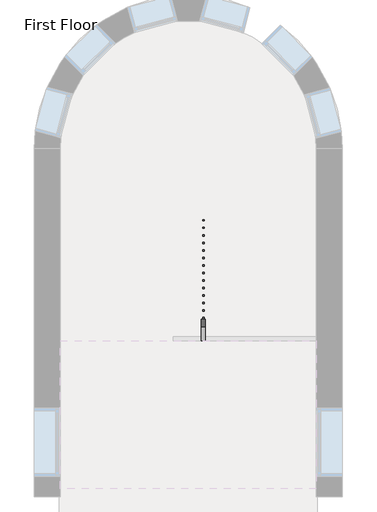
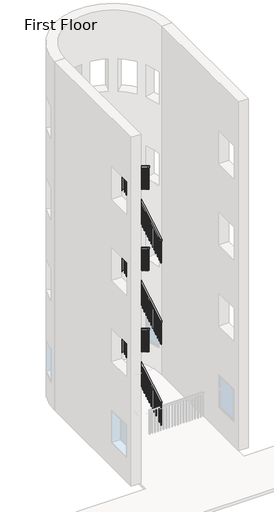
# One storey, part 4 of 5: 1 railing.
"""IFC4 building model written with IfcOpenShell, lengths in millimetres."""

from ifc_helpers import new_model, si_unit, frame, origin, place, context, project, spatial, polyline, outline, extrude, element, save

model = new_model("IFC4")

# Units and contexts
model_context = context("Model", 3, world=origin())
ifc_project = project(units=[si_unit("LENGTHUNIT", "METRE", prefix="MILLI")], contexts=[model_context])

# Site, building, storey
site = spatial("IfcSite", under=ifc_project)
building = spatial("IfcBuilding", under=site)
storey = spatial("IfcBuildingStorey", under=building, Name="First Floor", Elevation=0.0)

# Railing
placement = place(None, origin())
element("IfcRailing", 1, ObjectType="Handrail - Rectangular", at=placement, inside=storey, context=model_context, shape_type="SweptSolid", body=[
    extrude(outline(polyline([(7001.9758812, 7125.0190125), (7001.9758812, 7184.0202532), (9237.1758812, 8504.3915612), (9237.1758812, 8445.3903205), (7001.9758812, 7125.0190125)])), frame((-6067.8149687, 0.0, 0.0), z_axis=(1.0, 0.0, 0.0), x_axis=(0.0, 1.0, 0.0)), (0.0, 0.0, 1.0), 50.8),
    extrude(outline(polyline([(-6017.0149687, 9287.9758812), (-6017.0149687, 9237.1758812), (-6423.4149687, 9237.1758812), (-6423.4149687, 9287.9758812), (-6017.0149687, 9287.9758812)])), frame((0.0, 0.0, 8483.6), z_axis=(0.0, 0.0, 1.0), x_axis=(1.0, 0.0, 0.0)), (0.0, 0.0, 1.0), 50.8),
    extrude(outline(polyline([(9287.9758812, 8703.7333333), (9287.9758812, 8644.3318731), (7052.7758812, 9998.9985397), (7052.7758812, 10058.4), (9287.9758812, 8703.7333333)])), frame((-6474.2149687, 0.0, 0.0), z_axis=(1.0, 0.0, 0.0), x_axis=(0.0, 1.0, 0.0)), (0.0, 0.0, 1.0), 50.8),
    extrude(outline(polyline([(7138.5008812, 9947.0439943), (7138.5008812, 9134.8266332), (7119.4508812, 9146.3720877), (7119.4508812, 9958.5894488), (7138.5008812, 9947.0439943)])), frame((-6458.3399687, 0.0, 0.0), z_axis=(1.0, 0.0, 0.0), x_axis=(0.0, 1.0, 0.0)), (0.0, 0.0, 1.0), 19.05),
    extrude(outline(polyline([(7240.1008812, 9885.4682367), (7240.1008812, 9073.2508756), (7221.0508812, 9084.7963301), (7221.0508812, 9897.0136913), (7240.1008812, 9885.4682367)])), frame((-6458.3399687, 0.0, 0.0), z_axis=(1.0, 0.0, 0.0), x_axis=(0.0, 1.0, 0.0)), (0.0, 0.0, 1.0), 19.05),
    extrude(outline(polyline([(7341.7008812, 9823.8924791), (7341.7008812, 9011.675118), (7322.6508812, 9023.2205726), (7322.6508812, 9835.4379337), (7341.7008812, 9823.8924791)])), frame((-6458.3399687, 0.0, 0.0), z_axis=(1.0, 0.0, 0.0), x_axis=(0.0, 1.0, 0.0)), (0.0, 0.0, 1.0), 19.05),
    extrude(outline(polyline([(7443.3008812, 9762.3167216), (7443.3008812, 8950.0993604), (7424.2508812, 8961.644815), (7424.2508812, 9773.8621761), (7443.3008812, 9762.3167216)])), frame((-6458.3399687, 0.0, 0.0), z_axis=(1.0, 0.0, 0.0), x_axis=(0.0, 1.0, 0.0)), (0.0, 0.0, 1.0), 19.05),
    extrude(outline(polyline([(7544.9008812, 9700.740964), (7544.9008812, 8888.5236029), (7525.8508812, 8900.0690574), (7525.8508812, 9712.2864185), (7544.9008812, 9700.740964)])), frame((-6458.3399687, 0.0, 0.0), z_axis=(1.0, 0.0, 0.0), x_axis=(0.0, 1.0, 0.0)), (0.0, 0.0, 1.0), 19.05),
    extrude(outline(polyline([(7646.5008812, 9639.1652064), (7646.5008812, 8826.9478453), (7627.4508812, 8838.4932998), (7627.4508812, 9650.710661), (7646.5008812, 9639.1652064)])), frame((-6458.3399687, 0.0, 0.0), z_axis=(1.0, 0.0, 0.0), x_axis=(0.0, 1.0, 0.0)), (0.0, 0.0, 1.0), 19.05),
    extrude(outline(polyline([(7748.1008812, 9577.5894488), (7748.1008812, 8765.3720877), (7729.0508812, 8776.9175423), (7729.0508812, 9589.1349034), (7748.1008812, 9577.5894488)])), frame((-6458.3399687, 0.0, 0.0), z_axis=(1.0, 0.0, 0.0), x_axis=(0.0, 1.0, 0.0)), (0.0, 0.0, 1.0), 19.05),
    extrude(outline(polyline([(7849.7008812, 9516.0136913), (7849.7008812, 8703.7963301), (7830.6508812, 8715.3417847), (7830.6508812, 9527.5591458), (7849.7008812, 9516.0136913)])), frame((-6458.3399687, 0.0, 0.0), z_axis=(1.0, 0.0, 0.0), x_axis=(0.0, 1.0, 0.0)), (0.0, 0.0, 1.0), 19.05),
    extrude(outline(polyline([(7951.3008812, 9454.4379337), (7951.3008812, 8642.2205726), (7932.2508812, 8653.7660271), (7932.2508812, 9465.9833882), (7951.3008812, 9454.4379337)])), frame((-6458.3399687, 0.0, 0.0), z_axis=(1.0, 0.0, 0.0), x_axis=(0.0, 1.0, 0.0)), (0.0, 0.0, 1.0), 19.05),
    extrude(outline(polyline([(8052.9008812, 9392.8621761), (8052.9008812, 8580.644815), (8033.8508812, 8592.1902695), (8033.8508812, 9404.4076307), (8052.9008812, 9392.8621761)])), frame((-6458.3399687, 0.0, 0.0), z_axis=(1.0, 0.0, 0.0), x_axis=(0.0, 1.0, 0.0)), (0.0, 0.0, 1.0), 19.05),
    extrude(outline(polyline([(8154.5008812, 9331.2864185), (8154.5008812, 8519.0690574), (8135.4508812, 8530.614512), (8135.4508812, 9342.8318731), (8154.5008812, 9331.2864185)])), frame((-6458.3399687, 0.0, 0.0), z_axis=(1.0, 0.0, 0.0), x_axis=(0.0, 1.0, 0.0)), (0.0, 0.0, 1.0), 19.05),
    extrude(outline(polyline([(8256.1008812, 9269.710661), (8256.1008812, 8457.4932998), (8237.0508812, 8469.0387544), (8237.0508812, 9281.2561155), (8256.1008812, 9269.710661)])), frame((-6458.3399687, 0.0, 0.0), z_axis=(1.0, 0.0, 0.0), x_axis=(0.0, 1.0, 0.0)), (0.0, 0.0, 1.0), 19.05),
    extrude(outline(polyline([(8357.7008812, 9208.1349034), (8357.7008812, 8395.9175423), (8338.6508812, 8407.4629968), (8338.6508812, 9219.6803579), (8357.7008812, 9208.1349034)])), frame((-6458.3399687, 0.0, 0.0), z_axis=(1.0, 0.0, 0.0), x_axis=(0.0, 1.0, 0.0)), (0.0, 0.0, 1.0), 19.05),
    extrude(outline(polyline([(8459.3008812, 9146.5591458), (8459.3008812, 8334.3417847), (8440.2508812, 8345.8872392), (8440.2508812, 9158.1046004), (8459.3008812, 9146.5591458)])), frame((-6458.3399687, 0.0, 0.0), z_axis=(1.0, 0.0, 0.0), x_axis=(0.0, 1.0, 0.0)), (0.0, 0.0, 1.0), 19.05),
    extrude(outline(polyline([(8560.9008812, 9084.9833882), (8560.9008812, 8272.7660271), (8541.8508812, 8284.3114817), (8541.8508812, 9096.5288428), (8560.9008812, 9084.9833882)])), frame((-6458.3399687, 0.0, 0.0), z_axis=(1.0, 0.0, 0.0), x_axis=(0.0, 1.0, 0.0)), (0.0, 0.0, 1.0), 19.05),
    extrude(outline(polyline([(8662.5008812, 9023.4076307), (8662.5008812, 8211.1902695), (8643.4508812, 8222.7357241), (8643.4508812, 9034.9530852), (8662.5008812, 9023.4076307)])), frame((-6458.3399687, 0.0, 0.0), z_axis=(1.0, 0.0, 0.0), x_axis=(0.0, 1.0, 0.0)), (0.0, 0.0, 1.0), 19.05),
    extrude(outline(polyline([(8764.1008812, 8961.8318731), (8764.1008812, 8149.614512), (8745.0508812, 8161.1599665), (8745.0508812, 8973.3773276), (8764.1008812, 8961.8318731)])), frame((-6458.3399687, 0.0, 0.0), z_axis=(1.0, 0.0, 0.0), x_axis=(0.0, 1.0, 0.0)), (0.0, 0.0, 1.0), 19.05),
    extrude(outline(polyline([(8865.7008812, 8900.2561155), (8865.7008812, 8088.0387544), (8846.6508812, 8099.5842089), (8846.6508812, 8911.80157), (8865.7008812, 8900.2561155)])), frame((-6458.3399687, 0.0, 0.0), z_axis=(1.0, 0.0, 0.0), x_axis=(0.0, 1.0, 0.0)), (0.0, 0.0, 1.0), 19.05),
    extrude(outline(polyline([(8967.3008812, 8838.6803579), (8967.3008812, 8026.4629968), (8948.2508812, 8038.0084514), (8948.2508812, 8850.2258125), (8967.3008812, 8838.6803579)])), frame((-6458.3399687, 0.0, 0.0), z_axis=(1.0, 0.0, 0.0), x_axis=(0.0, 1.0, 0.0)), (0.0, 0.0, 1.0), 19.05),
    extrude(outline(polyline([(9068.9008812, 8777.1046004), (9068.9008812, 7964.8872392), (9049.8508812, 7976.4326938), (9049.8508812, 8788.6500549), (9068.9008812, 8777.1046004)])), frame((-6458.3399687, 0.0, 0.0), z_axis=(1.0, 0.0, 0.0), x_axis=(0.0, 1.0, 0.0)), (0.0, 0.0, 1.0), 19.05),
    extrude(outline(polyline([(9170.5008812, 8715.5288428), (9170.5008812, 7903.3114817), (9151.4508812, 7914.8569362), (9151.4508812, 8727.0742973), (9170.5008812, 8715.5288428)])), frame((-6458.3399687, 0.0, 0.0), z_axis=(1.0, 0.0, 0.0), x_axis=(0.0, 1.0, 0.0)), (0.0, 0.0, 1.0), 19.05),
    extrude(outline(polyline([(-6337.6899687, 9253.0508812), (-6356.7399687, 9253.0508812), (-6356.7399687, 9272.1008812), (-6337.6899687, 9272.1008812), (-6337.6899687, 9253.0508812)])), frame((0.0, 0.0, 7696.2), z_axis=(0.0, 0.0, 1.0), x_axis=(1.0, 0.0, 0.0)), (0.0, 0.0, 1.0), 787.4),
    extrude(outline(polyline([(-6236.0899687, 9253.0508812), (-6255.1399687, 9253.0508812), (-6255.1399687, 9272.1008812), (-6236.0899687, 9272.1008812), (-6236.0899687, 9253.0508812)])), frame((0.0, 0.0, 7696.2), z_axis=(0.0, 0.0, 1.0), x_axis=(1.0, 0.0, 0.0)), (0.0, 0.0, 1.0), 787.4),
    extrude(outline(polyline([(-6134.4899687, 9253.0508812), (-6153.5399687, 9253.0508812), (-6153.5399687, 9272.1008812), (-6134.4899687, 9272.1008812), (-6134.4899687, 9253.0508812)])), frame((0.0, 0.0, 7696.2), z_axis=(0.0, 0.0, 1.0), x_axis=(1.0, 0.0, 0.0)), (0.0, 0.0, 1.0), 787.4),
    extrude(outline(polyline([(9246.7008812, 8451.0169028), (9246.7008812, 7636.985429), (9227.6508812, 7625.7322645), (9227.6508812, 8439.7637382), (9246.7008812, 8451.0169028)])), frame((-6051.9399687, 0.0, 0.0), z_axis=(1.0, 0.0, 0.0), x_axis=(0.0, 1.0, 0.0)), (0.0, 0.0, 1.0), 19.05),
    extrude(outline(polyline([(9145.1008812, 8391.0000252), (9145.1008812, 7576.9685514), (9126.0508812, 7565.7153868), (9126.0508812, 8379.7468606), (9145.1008812, 8391.0000252)])), frame((-6051.9399687, 0.0, 0.0), z_axis=(1.0, 0.0, 0.0), x_axis=(0.0, 1.0, 0.0)), (0.0, 0.0, 1.0), 19.05),
    extrude(outline(polyline([(9043.5008812, 8330.9831475), (9043.5008812, 7516.9516738), (9024.4508812, 7505.6985092), (9024.4508812, 8319.729983), (9043.5008812, 8330.9831475)])), frame((-6051.9399687, 0.0, 0.0), z_axis=(1.0, 0.0, 0.0), x_axis=(0.0, 1.0, 0.0)), (0.0, 0.0, 1.0), 19.05),
    extrude(outline(polyline([(8941.9008812, 8270.9662699), (8941.9008812, 7456.9347961), (8922.8508812, 7445.6816316), (8922.8508812, 8259.7131053), (8941.9008812, 8270.9662699)])), frame((-6051.9399687, 0.0, 0.0), z_axis=(1.0, 0.0, 0.0), x_axis=(0.0, 1.0, 0.0)), (0.0, 0.0, 1.0), 19.05),
    extrude(outline(polyline([(8840.3008812, 8210.9493922), (8840.3008812, 7396.9179185), (8821.2508812, 7385.6647539), (8821.2508812, 8199.6962277), (8840.3008812, 8210.9493922)])), frame((-6051.9399687, 0.0, 0.0), z_axis=(1.0, 0.0, 0.0), x_axis=(0.0, 1.0, 0.0)), (0.0, 0.0, 1.0), 19.05),
    extrude(outline(polyline([(8738.7008812, 8150.9325146), (8738.7008812, 7336.9010408), (8719.6508812, 7325.6478763), (8719.6508812, 8139.67935), (8738.7008812, 8150.9325146)])), frame((-6051.9399687, 0.0, 0.0), z_axis=(1.0, 0.0, 0.0), x_axis=(0.0, 1.0, 0.0)), (0.0, 0.0, 1.0), 19.05),
    extrude(outline(polyline([(8637.1008812, 8090.915637), (8637.1008812, 7276.8841632), (8618.0508812, 7265.6309987), (8618.0508812, 8079.6624724), (8637.1008812, 8090.915637)])), frame((-6051.9399687, 0.0, 0.0), z_axis=(1.0, 0.0, 0.0), x_axis=(0.0, 1.0, 0.0)), (0.0, 0.0, 1.0), 19.05),
    extrude(outline(polyline([(8535.5008812, 8030.8987593), (8535.5008812, 7216.8672856), (8516.4508812, 7205.614121), (8516.4508812, 8019.6455948), (8535.5008812, 8030.8987593)])), frame((-6051.9399687, 0.0, 0.0), z_axis=(1.0, 0.0, 0.0), x_axis=(0.0, 1.0, 0.0)), (0.0, 0.0, 1.0), 19.05),
    extrude(outline(polyline([(8433.9008812, 7970.8818817), (8433.9008812, 7156.8504079), (8414.8508812, 7145.5972434), (8414.8508812, 7959.6287171), (8433.9008812, 7970.8818817)])), frame((-6051.9399687, 0.0, 0.0), z_axis=(1.0, 0.0, 0.0), x_axis=(0.0, 1.0, 0.0)), (0.0, 0.0, 1.0), 19.05),
    extrude(outline(polyline([(8332.3008812, 7910.8650041), (8332.3008812, 7096.8335303), (8313.2508812, 7085.5803657), (8313.2508812, 7899.6118395), (8332.3008812, 7910.8650041)])), frame((-6051.9399687, 0.0, 0.0), z_axis=(1.0, 0.0, 0.0), x_axis=(0.0, 1.0, 0.0)), (0.0, 0.0, 1.0), 19.05),
    extrude(outline(polyline([(8230.7008812, 7850.8481264), (8230.7008812, 7036.8166527), (8211.6508812, 7025.5634881), (8211.6508812, 7839.5949619), (8230.7008812, 7850.8481264)])), frame((-6051.9399687, 0.0, 0.0), z_axis=(1.0, 0.0, 0.0), x_axis=(0.0, 1.0, 0.0)), (0.0, 0.0, 1.0), 19.05),
    extrude(outline(polyline([(8129.1008812, 7790.8312488), (8129.1008812, 6976.799775), (8110.0508812, 6965.5466105), (8110.0508812, 7779.5780842), (8129.1008812, 7790.8312488)])), frame((-6051.9399687, 0.0, 0.0), z_axis=(1.0, 0.0, 0.0), x_axis=(0.0, 1.0, 0.0)), (0.0, 0.0, 1.0), 19.05),
    extrude(outline(polyline([(8027.5008812, 7730.8143711), (8027.5008812, 6916.7828974), (8008.4508812, 6905.5297328), (8008.4508812, 7719.5612066), (8027.5008812, 7730.8143711)])), frame((-6051.9399687, 0.0, 0.0), z_axis=(1.0, 0.0, 0.0), x_axis=(0.0, 1.0, 0.0)), (0.0, 0.0, 1.0), 19.05),
    extrude(outline(polyline([(7925.9008812, 7670.7974935), (7925.9008812, 6856.7660198), (7906.8508812, 6845.5128552), (7906.8508812, 7659.544329), (7925.9008812, 7670.7974935)])), frame((-6051.9399687, 0.0, 0.0), z_axis=(1.0, 0.0, 0.0), x_axis=(0.0, 1.0, 0.0)), (0.0, 0.0, 1.0), 19.05),
    extrude(outline(polyline([(7824.3008812, 7610.7806159), (7824.3008812, 6796.7491421), (7805.2508812, 6785.4959776), (7805.2508812, 7599.5274513), (7824.3008812, 7610.7806159)])), frame((-6051.9399687, 0.0, 0.0), z_axis=(1.0, 0.0, 0.0), x_axis=(0.0, 1.0, 0.0)), (0.0, 0.0, 1.0), 19.05),
    extrude(outline(polyline([(7722.7008812, 7550.7637382), (7722.7008812, 6736.7322645), (7703.6508812, 6725.4790999), (7703.6508812, 7539.5105737), (7722.7008812, 7550.7637382)])), frame((-6051.9399687, 0.0, 0.0), z_axis=(1.0, 0.0, 0.0), x_axis=(0.0, 1.0, 0.0)), (0.0, 0.0, 1.0), 19.05),
    extrude(outline(polyline([(7621.1008812, 7490.7468606), (7621.1008812, 6676.7153868), (7602.0508812, 6665.4622223), (7602.0508812, 7479.493696), (7621.1008812, 7490.7468606)])), frame((-6051.9399687, 0.0, 0.0), z_axis=(1.0, 0.0, 0.0), x_axis=(0.0, 1.0, 0.0)), (0.0, 0.0, 1.0), 19.05),
    extrude(outline(polyline([(7519.5008812, 7430.729983), (7519.5008812, 6616.6985092), (7500.4508812, 6605.4453446), (7500.4508812, 7419.4768184), (7519.5008812, 7430.729983)])), frame((-6051.9399687, 0.0, 0.0), z_axis=(1.0, 0.0, 0.0), x_axis=(0.0, 1.0, 0.0)), (0.0, 0.0, 1.0), 19.05),
    extrude(outline(polyline([(7417.9008812, 7370.7131053), (7417.9008812, 6556.6816316), (7398.8508812, 6545.428467), (7398.8508812, 7359.4599408), (7417.9008812, 7370.7131053)])), frame((-6051.9399687, 0.0, 0.0), z_axis=(1.0, 0.0, 0.0), x_axis=(0.0, 1.0, 0.0)), (0.0, 0.0, 1.0), 19.05),
    extrude(outline(polyline([(7316.3008812, 7310.6962277), (7316.3008812, 6496.6647539), (7297.2508812, 6485.4115894), (7297.2508812, 7299.4430631), (7316.3008812, 7310.6962277)])), frame((-6051.9399687, 0.0, 0.0), z_axis=(1.0, 0.0, 0.0), x_axis=(0.0, 1.0, 0.0)), (0.0, 0.0, 1.0), 19.05),
    extrude(outline(polyline([(7214.7008812, 7250.67935), (7214.7008812, 6436.6478763), (7195.6508812, 6425.3947117), (7195.6508812, 7239.4261855), (7214.7008812, 7250.67935)])), frame((-6051.9399687, 0.0, 0.0), z_axis=(1.0, 0.0, 0.0), x_axis=(0.0, 1.0, 0.0)), (0.0, 0.0, 1.0), 19.05),
    extrude(outline(polyline([(7113.1008812, 7190.6624724), (7113.1008812, 6376.6309987), (7094.0508812, 6365.3778341), (7094.0508812, 7179.4093079), (7113.1008812, 7190.6624724)])), frame((-6051.9399687, 0.0, 0.0), z_axis=(1.0, 0.0, 0.0), x_axis=(0.0, 1.0, 0.0)), (0.0, 0.0, 1.0), 19.05),
    extrude(outline(polyline([(9272.1008812, 8653.9530852), (9272.1008812, 7841.7357241), (9253.0508812, 7853.2811786), (9253.0508812, 8665.4985397), (9272.1008812, 8653.9530852)])), frame((-6458.3399687, 0.0, 0.0), z_axis=(1.0, 0.0, 0.0), x_axis=(0.0, 1.0, 0.0)), (0.0, 0.0, 1.0), 19.05),
    extrude(outline(polyline([(-6032.8899687, 9253.0508812), (-6051.9399687, 9253.0508812), (-6051.9399687, 9272.1008812), (-6032.8899687, 9272.1008812), (-6032.8899687, 9253.0508812)])), frame((0.0, 0.0, 7696.2), z_axis=(0.0, 0.0, 1.0), x_axis=(1.0, 0.0, 0.0)), (0.0, 0.0, 1.0), 787.4),
    extrude(outline(polyline([(7071.8258812, 9987.4530852), (7071.8258812, 9175.2357241), (7052.7758812, 9186.7811786), (7052.7758812, 9998.9985397), (7071.8258812, 9987.4530852)])), frame((-6458.3399687, 0.0, 0.0), z_axis=(1.0, 0.0, 0.0), x_axis=(0.0, 1.0, 0.0)), (0.0, 0.0, 1.0), 19.05),
    extrude(outline(polyline([(7021.0258812, 7136.2721771), (7021.0258812, 6322.2407033), (7001.9758812, 6310.9875387), (7001.9758812, 7125.0190125), (7021.0258812, 7136.2721771)])), frame((-6051.9399687, 0.0, 0.0), z_axis=(1.0, 0.0, 0.0), x_axis=(0.0, 1.0, 0.0)), (0.0, 0.0, 1.0), 19.05),
    extrude(outline(polyline([(7001.9758812, 4077.0190125), (7001.9758812, 4136.0202532), (9237.1758812, 5456.3915612), (9237.1758812, 5397.3903205), (7001.9758812, 4077.0190125)])), frame((-6067.8149687, 0.0, 0.0), z_axis=(1.0, 0.0, 0.0), x_axis=(0.0, 1.0, 0.0)), (0.0, 0.0, 1.0), 50.8),
    extrude(outline(polyline([(-6017.0149687, 9287.9758812), (-6017.0149687, 9237.1758812), (-6423.4149687, 9237.1758812), (-6423.4149687, 9287.9758812), (-6017.0149687, 9287.9758812)])), frame((0.0, 0.0, 5435.6), z_axis=(0.0, 0.0, 1.0), x_axis=(1.0, 0.0, 0.0)), (0.0, 0.0, 1.0), 50.8),
    extrude(outline(polyline([(9287.9758812, 5655.7333333), (9287.9758812, 5596.3318731), (7052.7758812, 6950.9985397), (7052.7758812, 7010.4), (9287.9758812, 5655.7333333)])), frame((-6474.2149687, 0.0, 0.0), z_axis=(1.0, 0.0, 0.0), x_axis=(0.0, 1.0, 0.0)), (0.0, 0.0, 1.0), 50.8),
    extrude(outline(polyline([(7138.5008812, 6899.0439943), (7138.5008812, 6086.8266332), (7119.4508812, 6098.3720877), (7119.4508812, 6910.5894488), (7138.5008812, 6899.0439943)])), frame((-6458.3399687, 0.0, 0.0), z_axis=(1.0, 0.0, 0.0), x_axis=(0.0, 1.0, 0.0)), (0.0, 0.0, 1.0), 19.05),
    extrude(outline(polyline([(7240.1008812, 6837.4682367), (7240.1008812, 6025.2508756), (7221.0508812, 6036.7963301), (7221.0508812, 6849.0136913), (7240.1008812, 6837.4682367)])), frame((-6458.3399687, 0.0, 0.0), z_axis=(1.0, 0.0, 0.0), x_axis=(0.0, 1.0, 0.0)), (0.0, 0.0, 1.0), 19.05),
    extrude(outline(polyline([(7341.7008812, 6775.8924791), (7341.7008812, 5963.675118), (7322.6508812, 5975.2205726), (7322.6508812, 6787.4379337), (7341.7008812, 6775.8924791)])), frame((-6458.3399687, 0.0, 0.0), z_axis=(1.0, 0.0, 0.0), x_axis=(0.0, 1.0, 0.0)), (0.0, 0.0, 1.0), 19.05),
    extrude(outline(polyline([(7443.3008812, 6714.3167216), (7443.3008812, 5902.0993604), (7424.2508812, 5913.644815), (7424.2508812, 6725.8621761), (7443.3008812, 6714.3167216)])), frame((-6458.3399687, 0.0, 0.0), z_axis=(1.0, 0.0, 0.0), x_axis=(0.0, 1.0, 0.0)), (0.0, 0.0, 1.0), 19.05),
    extrude(outline(polyline([(7544.9008812, 6652.740964), (7544.9008812, 5840.5236029), (7525.8508812, 5852.0690574), (7525.8508812, 6664.2864185), (7544.9008812, 6652.740964)])), frame((-6458.3399687, 0.0, 0.0), z_axis=(1.0, 0.0, 0.0), x_axis=(0.0, 1.0, 0.0)), (0.0, 0.0, 1.0), 19.05),
    extrude(outline(polyline([(7646.5008812, 6591.1652064), (7646.5008812, 5778.9478453), (7627.4508812, 5790.4932998), (7627.4508812, 6602.710661), (7646.5008812, 6591.1652064)])), frame((-6458.3399687, 0.0, 0.0), z_axis=(1.0, 0.0, 0.0), x_axis=(0.0, 1.0, 0.0)), (0.0, 0.0, 1.0), 19.05),
    extrude(outline(polyline([(7748.1008812, 6529.5894488), (7748.1008812, 5717.3720877), (7729.0508812, 5728.9175423), (7729.0508812, 6541.1349034), (7748.1008812, 6529.5894488)])), frame((-6458.3399687, 0.0, 0.0), z_axis=(1.0, 0.0, 0.0), x_axis=(0.0, 1.0, 0.0)), (0.0, 0.0, 1.0), 19.05),
    extrude(outline(polyline([(7849.7008812, 6468.0136913), (7849.7008812, 5655.7963301), (7830.6508812, 5667.3417847), (7830.6508812, 6479.5591458), (7849.7008812, 6468.0136913)])), frame((-6458.3399687, 0.0, 0.0), z_axis=(1.0, 0.0, 0.0), x_axis=(0.0, 1.0, 0.0)), (0.0, 0.0, 1.0), 19.05),
    extrude(outline(polyline([(7951.3008812, 6406.4379337), (7951.3008812, 5594.2205726), (7932.2508812, 5605.7660271), (7932.2508812, 6417.9833882), (7951.3008812, 6406.4379337)])), frame((-6458.3399687, 0.0, 0.0), z_axis=(1.0, 0.0, 0.0), x_axis=(0.0, 1.0, 0.0)), (0.0, 0.0, 1.0), 19.05),
    extrude(outline(polyline([(8052.9008812, 6344.8621761), (8052.9008812, 5532.644815), (8033.8508812, 5544.1902695), (8033.8508812, 6356.4076307), (8052.9008812, 6344.8621761)])), frame((-6458.3399687, 0.0, 0.0), z_axis=(1.0, 0.0, 0.0), x_axis=(0.0, 1.0, 0.0)), (0.0, 0.0, 1.0), 19.05),
    extrude(outline(polyline([(8154.5008812, 6283.2864185), (8154.5008812, 5471.0690574), (8135.4508812, 5482.614512), (8135.4508812, 6294.8318731), (8154.5008812, 6283.2864185)])), frame((-6458.3399687, 0.0, 0.0), z_axis=(1.0, 0.0, 0.0), x_axis=(0.0, 1.0, 0.0)), (0.0, 0.0, 1.0), 19.05),
    extrude(outline(polyline([(8256.1008812, 6221.710661), (8256.1008812, 5409.4932998), (8237.0508812, 5421.0387544), (8237.0508812, 6233.2561155), (8256.1008812, 6221.710661)])), frame((-6458.3399687, 0.0, 0.0), z_axis=(1.0, 0.0, 0.0), x_axis=(0.0, 1.0, 0.0)), (0.0, 0.0, 1.0), 19.05),
    extrude(outline(polyline([(8357.7008812, 6160.1349034), (8357.7008812, 5347.9175423), (8338.6508812, 5359.4629968), (8338.6508812, 6171.6803579), (8357.7008812, 6160.1349034)])), frame((-6458.3399687, 0.0, 0.0), z_axis=(1.0, 0.0, 0.0), x_axis=(0.0, 1.0, 0.0)), (0.0, 0.0, 1.0), 19.05),
    extrude(outline(polyline([(8459.3008812, 6098.5591458), (8459.3008812, 5286.3417847), (8440.2508812, 5297.8872392), (8440.2508812, 6110.1046004), (8459.3008812, 6098.5591458)])), frame((-6458.3399687, 0.0, 0.0), z_axis=(1.0, 0.0, 0.0), x_axis=(0.0, 1.0, 0.0)), (0.0, 0.0, 1.0), 19.05),
    extrude(outline(polyline([(8560.9008812, 6036.9833882), (8560.9008812, 5224.7660271), (8541.8508812, 5236.3114817), (8541.8508812, 6048.5288428), (8560.9008812, 6036.9833882)])), frame((-6458.3399687, 0.0, 0.0), z_axis=(1.0, 0.0, 0.0), x_axis=(0.0, 1.0, 0.0)), (0.0, 0.0, 1.0), 19.05),
    extrude(outline(polyline([(8662.5008812, 5975.4076307), (8662.5008812, 5163.1902695), (8643.4508812, 5174.7357241), (8643.4508812, 5986.9530852), (8662.5008812, 5975.4076307)])), frame((-6458.3399687, 0.0, 0.0), z_axis=(1.0, 0.0, 0.0), x_axis=(0.0, 1.0, 0.0)), (0.0, 0.0, 1.0), 19.05),
    extrude(outline(polyline([(8764.1008812, 5913.8318731), (8764.1008812, 5101.614512), (8745.0508812, 5113.1599665), (8745.0508812, 5925.3773276), (8764.1008812, 5913.8318731)])), frame((-6458.3399687, 0.0, 0.0), z_axis=(1.0, 0.0, 0.0), x_axis=(0.0, 1.0, 0.0)), (0.0, 0.0, 1.0), 19.05),
    extrude(outline(polyline([(8865.7008812, 5852.2561155), (8865.7008812, 5040.0387544), (8846.6508812, 5051.5842089), (8846.6508812, 5863.80157), (8865.7008812, 5852.2561155)])), frame((-6458.3399687, 0.0, 0.0), z_axis=(1.0, 0.0, 0.0), x_axis=(0.0, 1.0, 0.0)), (0.0, 0.0, 1.0), 19.05),
    extrude(outline(polyline([(8967.3008812, 5790.6803579), (8967.3008812, 4978.4629968), (8948.2508812, 4990.0084514), (8948.2508812, 5802.2258125), (8967.3008812, 5790.6803579)])), frame((-6458.3399687, 0.0, 0.0), z_axis=(1.0, 0.0, 0.0), x_axis=(0.0, 1.0, 0.0)), (0.0, 0.0, 1.0), 19.05),
    extrude(outline(polyline([(9068.9008812, 5729.1046004), (9068.9008812, 4916.8872392), (9049.8508812, 4928.4326938), (9049.8508812, 5740.6500549), (9068.9008812, 5729.1046004)])), frame((-6458.3399687, 0.0, 0.0), z_axis=(1.0, 0.0, 0.0), x_axis=(0.0, 1.0, 0.0)), (0.0, 0.0, 1.0), 19.05),
    extrude(outline(polyline([(9170.5008812, 5667.5288428), (9170.5008812, 4855.3114817), (9151.4508812, 4866.8569362), (9151.4508812, 5679.0742973), (9170.5008812, 5667.5288428)])), frame((-6458.3399687, 0.0, 0.0), z_axis=(1.0, 0.0, 0.0), x_axis=(0.0, 1.0, 0.0)), (0.0, 0.0, 1.0), 19.05),
    extrude(outline(polyline([(-6337.6899687, 9253.0508812), (-6356.7399687, 9253.0508812), (-6356.7399687, 9272.1008812), (-6337.6899687, 9272.1008812), (-6337.6899687, 9253.0508812)])), frame((0.0, 0.0, 4648.2), z_axis=(0.0, 0.0, 1.0), x_axis=(1.0, 0.0, 0.0)), (0.0, 0.0, 1.0), 787.4),
    extrude(outline(polyline([(-6236.0899687, 9253.0508812), (-6255.1399687, 9253.0508812), (-6255.1399687, 9272.1008812), (-6236.0899687, 9272.1008812), (-6236.0899687, 9253.0508812)])), frame((0.0, 0.0, 4648.2), z_axis=(0.0, 0.0, 1.0), x_axis=(1.0, 0.0, 0.0)), (0.0, 0.0, 1.0), 787.4),
    extrude(outline(polyline([(-6134.4899687, 9253.0508812), (-6153.5399687, 9253.0508812), (-6153.5399687, 9272.1008812), (-6134.4899687, 9272.1008812), (-6134.4899687, 9253.0508812)])), frame((0.0, 0.0, 4648.2), z_axis=(0.0, 0.0, 1.0), x_axis=(1.0, 0.0, 0.0)), (0.0, 0.0, 1.0), 787.4),
    extrude(outline(polyline([(9246.7008812, 5403.0169028), (9246.7008812, 4588.985429), (9227.6508812, 4577.7322645), (9227.6508812, 5391.7637382), (9246.7008812, 5403.0169028)])), frame((-6051.9399687, 0.0, 0.0), z_axis=(1.0, 0.0, 0.0), x_axis=(0.0, 1.0, 0.0)), (0.0, 0.0, 1.0), 19.05),
    extrude(outline(polyline([(9145.1008812, 5343.0000252), (9145.1008812, 4528.9685514), (9126.0508812, 4517.7153868), (9126.0508812, 5331.7468606), (9145.1008812, 5343.0000252)])), frame((-6051.9399687, 0.0, 0.0), z_axis=(1.0, 0.0, 0.0), x_axis=(0.0, 1.0, 0.0)), (0.0, 0.0, 1.0), 19.05),
    extrude(outline(polyline([(9043.5008812, 5282.9831475), (9043.5008812, 4468.9516738), (9024.4508812, 4457.6985092), (9024.4508812, 5271.729983), (9043.5008812, 5282.9831475)])), frame((-6051.9399687, 0.0, 0.0), z_axis=(1.0, 0.0, 0.0), x_axis=(0.0, 1.0, 0.0)), (0.0, 0.0, 1.0), 19.05),
    extrude(outline(polyline([(8941.9008812, 5222.9662699), (8941.9008812, 4408.9347961), (8922.8508812, 4397.6816316), (8922.8508812, 5211.7131053), (8941.9008812, 5222.9662699)])), frame((-6051.9399687, 0.0, 0.0), z_axis=(1.0, 0.0, 0.0), x_axis=(0.0, 1.0, 0.0)), (0.0, 0.0, 1.0), 19.05),
    extrude(outline(polyline([(8840.3008812, 5162.9493922), (8840.3008812, 4348.9179185), (8821.2508812, 4337.6647539), (8821.2508812, 5151.6962277), (8840.3008812, 5162.9493922)])), frame((-6051.9399687, 0.0, 0.0), z_axis=(1.0, 0.0, 0.0), x_axis=(0.0, 1.0, 0.0)), (0.0, 0.0, 1.0), 19.05),
    extrude(outline(polyline([(8738.7008812, 5102.9325146), (8738.7008812, 4288.9010409), (8719.6508812, 4277.6478763), (8719.6508812, 5091.67935), (8738.7008812, 5102.9325146)])), frame((-6051.9399687, 0.0, 0.0), z_axis=(1.0, 0.0, 0.0), x_axis=(0.0, 1.0, 0.0)), (0.0, 0.0, 1.0), 19.05),
    extrude(outline(polyline([(8637.1008812, 5042.915637), (8637.1008812, 4228.8841632), (8618.0508812, 4217.6309987), (8618.0508812, 5031.6624724), (8637.1008812, 5042.915637)])), frame((-6051.9399687, 0.0, 0.0), z_axis=(1.0, 0.0, 0.0), x_axis=(0.0, 1.0, 0.0)), (0.0, 0.0, 1.0), 19.05),
    extrude(outline(polyline([(8535.5008812, 4982.8987593), (8535.5008812, 4168.8672856), (8516.4508812, 4157.614121), (8516.4508812, 4971.6455948), (8535.5008812, 4982.8987593)])), frame((-6051.9399687, 0.0, 0.0), z_axis=(1.0, 0.0, 0.0), x_axis=(0.0, 1.0, 0.0)), (0.0, 0.0, 1.0), 19.05),
    extrude(outline(polyline([(8433.9008812, 4922.8818817), (8433.9008812, 4108.8504079), (8414.8508812, 4097.5972434), (8414.8508812, 4911.6287171), (8433.9008812, 4922.8818817)])), frame((-6051.9399687, 0.0, 0.0), z_axis=(1.0, 0.0, 0.0), x_axis=(0.0, 1.0, 0.0)), (0.0, 0.0, 1.0), 19.05),
    extrude(outline(polyline([(8332.3008812, 4862.8650041), (8332.3008812, 4048.8335303), (8313.2508812, 4037.5803657), (8313.2508812, 4851.6118395), (8332.3008812, 4862.8650041)])), frame((-6051.9399687, 0.0, 0.0), z_axis=(1.0, 0.0, 0.0), x_axis=(0.0, 1.0, 0.0)), (0.0, 0.0, 1.0), 19.05),
    extrude(outline(polyline([(8230.7008812, 4802.8481264), (8230.7008812, 3988.8166527), (8211.6508812, 3977.5634881), (8211.6508812, 4791.5949619), (8230.7008812, 4802.8481264)])), frame((-6051.9399687, 0.0, 0.0), z_axis=(1.0, 0.0, 0.0), x_axis=(0.0, 1.0, 0.0)), (0.0, 0.0, 1.0), 19.05),
    extrude(outline(polyline([(8129.1008812, 4742.8312488), (8129.1008812, 3928.799775), (8110.0508812, 3917.5466105), (8110.0508812, 4731.5780842), (8129.1008812, 4742.8312488)])), frame((-6051.9399687, 0.0, 0.0), z_axis=(1.0, 0.0, 0.0), x_axis=(0.0, 1.0, 0.0)), (0.0, 0.0, 1.0), 19.05),
    extrude(outline(polyline([(8027.5008812, 4682.8143711), (8027.5008812, 3868.7828974), (8008.4508812, 3857.5297328), (8008.4508812, 4671.5612066), (8027.5008812, 4682.8143711)])), frame((-6051.9399687, 0.0, 0.0), z_axis=(1.0, 0.0, 0.0), x_axis=(0.0, 1.0, 0.0)), (0.0, 0.0, 1.0), 19.05),
    extrude(outline(polyline([(7925.9008812, 4622.7974935), (7925.9008812, 3808.7660198), (7906.8508812, 3797.5128552), (7906.8508812, 4611.544329), (7925.9008812, 4622.7974935)])), frame((-6051.9399687, 0.0, 0.0), z_axis=(1.0, 0.0, 0.0), x_axis=(0.0, 1.0, 0.0)), (0.0, 0.0, 1.0), 19.05),
    extrude(outline(polyline([(7824.3008812, 4562.7806159), (7824.3008812, 3748.7491421), (7805.2508812, 3737.4959776), (7805.2508812, 4551.5274513), (7824.3008812, 4562.7806159)])), frame((-6051.9399687, 0.0, 0.0), z_axis=(1.0, 0.0, 0.0), x_axis=(0.0, 1.0, 0.0)), (0.0, 0.0, 1.0), 19.05),
    extrude(outline(polyline([(7722.7008812, 4502.7637382), (7722.7008812, 3688.7322645), (7703.6508812, 3677.4790999), (7703.6508812, 4491.5105737), (7722.7008812, 4502.7637382)])), frame((-6051.9399687, 0.0, 0.0), z_axis=(1.0, 0.0, 0.0), x_axis=(0.0, 1.0, 0.0)), (0.0, 0.0, 1.0), 19.05),
    extrude(outline(polyline([(7621.1008812, 4442.7468606), (7621.1008812, 3628.7153868), (7602.0508812, 3617.4622223), (7602.0508812, 4431.493696), (7621.1008812, 4442.7468606)])), frame((-6051.9399687, 0.0, 0.0), z_axis=(1.0, 0.0, 0.0), x_axis=(0.0, 1.0, 0.0)), (0.0, 0.0, 1.0), 19.05),
    extrude(outline(polyline([(7519.5008812, 4382.729983), (7519.5008812, 3568.6985092), (7500.4508812, 3557.4453446), (7500.4508812, 4371.4768184), (7519.5008812, 4382.729983)])), frame((-6051.9399687, 0.0, 0.0), z_axis=(1.0, 0.0, 0.0), x_axis=(0.0, 1.0, 0.0)), (0.0, 0.0, 1.0), 19.05),
    extrude(outline(polyline([(7417.9008812, 4322.7131053), (7417.9008812, 3508.6816316), (7398.8508812, 3497.428467), (7398.8508812, 4311.4599408), (7417.9008812, 4322.7131053)])), frame((-6051.9399687, 0.0, 0.0), z_axis=(1.0, 0.0, 0.0), x_axis=(0.0, 1.0, 0.0)), (0.0, 0.0, 1.0), 19.05),
    extrude(outline(polyline([(7316.3008812, 4262.6962277), (7316.3008812, 3448.6647539), (7297.2508812, 3437.4115894), (7297.2508812, 4251.4430631), (7316.3008812, 4262.6962277)])), frame((-6051.9399687, 0.0, 0.0), z_axis=(1.0, 0.0, 0.0), x_axis=(0.0, 1.0, 0.0)), (0.0, 0.0, 1.0), 19.05),
    extrude(outline(polyline([(7214.7008812, 4202.67935), (7214.7008812, 3388.6478763), (7195.6508812, 3377.3947117), (7195.6508812, 4191.4261855), (7214.7008812, 4202.67935)])), frame((-6051.9399687, 0.0, 0.0), z_axis=(1.0, 0.0, 0.0), x_axis=(0.0, 1.0, 0.0)), (0.0, 0.0, 1.0), 19.05),
    extrude(outline(polyline([(7113.1008812, 4142.6624724), (7113.1008812, 3328.6309987), (7094.0508812, 3317.3778341), (7094.0508812, 4131.4093079), (7113.1008812, 4142.6624724)])), frame((-6051.9399687, 0.0, 0.0), z_axis=(1.0, 0.0, 0.0), x_axis=(0.0, 1.0, 0.0)), (0.0, 0.0, 1.0), 19.05),
    extrude(outline(polyline([(9272.1008812, 5605.9530852), (9272.1008812, 4793.7357241), (9253.0508812, 4805.2811786), (9253.0508812, 5617.4985397), (9272.1008812, 5605.9530852)])), frame((-6458.3399687, 0.0, 0.0), z_axis=(1.0, 0.0, 0.0), x_axis=(0.0, 1.0, 0.0)), (0.0, 0.0, 1.0), 19.05),
    extrude(outline(polyline([(-6032.8899687, 9253.0508812), (-6051.9399687, 9253.0508812), (-6051.9399687, 9272.1008812), (-6032.8899687, 9272.1008812), (-6032.8899687, 9253.0508812)])), frame((0.0, 0.0, 4648.2), z_axis=(0.0, 0.0, 1.0), x_axis=(1.0, 0.0, 0.0)), (0.0, 0.0, 1.0), 787.4),
    extrude(outline(polyline([(7071.8258812, 6939.4530852), (7071.8258812, 6127.2357241), (7052.7758812, 6138.7811786), (7052.7758812, 6950.9985397), (7071.8258812, 6939.4530852)])), frame((-6458.3399687, 0.0, 0.0), z_axis=(1.0, 0.0, 0.0), x_axis=(0.0, 1.0, 0.0)), (0.0, 0.0, 1.0), 19.05),
    extrude(outline(polyline([(7021.0258812, 4088.2721771), (7021.0258812, 3274.2407033), (7001.9758812, 3262.9875387), (7001.9758812, 4077.0190125), (7021.0258812, 4088.2721771)])), frame((-6051.9399687, 0.0, 0.0), z_axis=(1.0, 0.0, 0.0), x_axis=(0.0, 1.0, 0.0)), (0.0, 0.0, 1.0), 19.05),
    extrude(outline(polyline([(7001.9758812, 1029.0190125), (7001.9758812, 1088.0202532), (9237.1758812, 2408.3915612), (9237.1758812, 2349.3903205), (7001.9758812, 1029.0190125)])), frame((-6067.8149687, 0.0, 0.0), z_axis=(1.0, 0.0, 0.0), x_axis=(0.0, 1.0, 0.0)), (0.0, 0.0, 1.0), 50.8),
    extrude(outline(polyline([(-6017.0149687, 9287.9758812), (-6017.0149687, 9237.1758812), (-6423.4149687, 9237.1758812), (-6423.4149687, 9287.9758812), (-6017.0149687, 9287.9758812)])), frame((0.0, 0.0, 2387.6), z_axis=(0.0, 0.0, 1.0), x_axis=(1.0, 0.0, 0.0)), (0.0, 0.0, 1.0), 50.8),
    extrude(outline(polyline([(9287.9758812, 2607.7333333), (9287.9758812, 2548.3318731), (7052.7758812, 3902.9985397), (7052.7758812, 3962.4), (9287.9758812, 2607.7333333)])), frame((-6474.2149687, 0.0, 0.0), z_axis=(1.0, 0.0, 0.0), x_axis=(0.0, 1.0, 0.0)), (0.0, 0.0, 1.0), 50.8),
    extrude(outline(polyline([(7138.5008812, 3851.0439943), (7138.5008812, 3038.8266332), (7119.4508812, 3050.3720877), (7119.4508812, 3862.5894488), (7138.5008812, 3851.0439943)])), frame((-6458.3399687, 0.0, 0.0), z_axis=(1.0, 0.0, 0.0), x_axis=(0.0, 1.0, 0.0)), (0.0, 0.0, 1.0), 19.05),
    extrude(outline(polyline([(7240.1008812, 3789.4682367), (7240.1008812, 2977.2508756), (7221.0508812, 2988.7963301), (7221.0508812, 3801.0136913), (7240.1008812, 3789.4682367)])), frame((-6458.3399687, 0.0, 0.0), z_axis=(1.0, 0.0, 0.0), x_axis=(0.0, 1.0, 0.0)), (0.0, 0.0, 1.0), 19.05),
    extrude(outline(polyline([(7341.7008812, 3727.8924791), (7341.7008812, 2915.675118), (7322.6508812, 2927.2205726), (7322.6508812, 3739.4379337), (7341.7008812, 3727.8924791)])), frame((-6458.3399687, 0.0, 0.0), z_axis=(1.0, 0.0, 0.0), x_axis=(0.0, 1.0, 0.0)), (0.0, 0.0, 1.0), 19.05),
    extrude(outline(polyline([(7443.3008812, 3666.3167216), (7443.3008812, 2854.0993604), (7424.2508812, 2865.644815), (7424.2508812, 3677.8621761), (7443.3008812, 3666.3167216)])), frame((-6458.3399687, 0.0, 0.0), z_axis=(1.0, 0.0, 0.0), x_axis=(0.0, 1.0, 0.0)), (0.0, 0.0, 1.0), 19.05),
    extrude(outline(polyline([(7544.9008812, 3604.740964), (7544.9008812, 2792.5236029), (7525.8508812, 2804.0690574), (7525.8508812, 3616.2864185), (7544.9008812, 3604.740964)])), frame((-6458.3399687, 0.0, 0.0), z_axis=(1.0, 0.0, 0.0), x_axis=(0.0, 1.0, 0.0)), (0.0, 0.0, 1.0), 19.05),
    extrude(outline(polyline([(7646.5008812, 3543.1652064), (7646.5008812, 2730.9478453), (7627.4508812, 2742.4932998), (7627.4508812, 3554.710661), (7646.5008812, 3543.1652064)])), frame((-6458.3399687, 0.0, 0.0), z_axis=(1.0, 0.0, 0.0), x_axis=(0.0, 1.0, 0.0)), (0.0, 0.0, 1.0), 19.05),
    extrude(outline(polyline([(7748.1008812, 3481.5894488), (7748.1008812, 2669.3720877), (7729.0508812, 2680.9175423), (7729.0508812, 3493.1349034), (7748.1008812, 3481.5894488)])), frame((-6458.3399687, 0.0, 0.0), z_axis=(1.0, 0.0, 0.0), x_axis=(0.0, 1.0, 0.0)), (0.0, 0.0, 1.0), 19.05),
    extrude(outline(polyline([(7849.7008812, 3420.0136913), (7849.7008812, 2607.7963301), (7830.6508812, 2619.3417847), (7830.6508812, 3431.5591458), (7849.7008812, 3420.0136913)])), frame((-6458.3399687, 0.0, 0.0), z_axis=(1.0, 0.0, 0.0), x_axis=(0.0, 1.0, 0.0)), (0.0, 0.0, 1.0), 19.05),
    extrude(outline(polyline([(7951.3008812, 3358.4379337), (7951.3008812, 2546.2205726), (7932.2508812, 2557.7660271), (7932.2508812, 3369.9833882), (7951.3008812, 3358.4379337)])), frame((-6458.3399687, 0.0, 0.0), z_axis=(1.0, 0.0, 0.0), x_axis=(0.0, 1.0, 0.0)), (0.0, 0.0, 1.0), 19.05),
    extrude(outline(polyline([(8052.9008812, 3296.8621761), (8052.9008812, 2484.644815), (8033.8508812, 2496.1902695), (8033.8508812, 3308.4076307), (8052.9008812, 3296.8621761)])), frame((-6458.3399687, 0.0, 0.0), z_axis=(1.0, 0.0, 0.0), x_axis=(0.0, 1.0, 0.0)), (0.0, 0.0, 1.0), 19.05),
    extrude(outline(polyline([(8154.5008812, 3235.2864185), (8154.5008812, 2423.0690574), (8135.4508812, 2434.614512), (8135.4508812, 3246.8318731), (8154.5008812, 3235.2864185)])), frame((-6458.3399687, 0.0, 0.0), z_axis=(1.0, 0.0, 0.0), x_axis=(0.0, 1.0, 0.0)), (0.0, 0.0, 1.0), 19.05),
    extrude(outline(polyline([(8256.1008812, 3173.710661), (8256.1008812, 2361.4932998), (8237.0508812, 2373.0387544), (8237.0508812, 3185.2561155), (8256.1008812, 3173.710661)])), frame((-6458.3399687, 0.0, 0.0), z_axis=(1.0, 0.0, 0.0), x_axis=(0.0, 1.0, 0.0)), (0.0, 0.0, 1.0), 19.05),
    extrude(outline(polyline([(8357.7008812, 3112.1349034), (8357.7008812, 2299.9175423), (8338.6508812, 2311.4629968), (8338.6508812, 3123.6803579), (8357.7008812, 3112.1349034)])), frame((-6458.3399687, 0.0, 0.0), z_axis=(1.0, 0.0, 0.0), x_axis=(0.0, 1.0, 0.0)), (0.0, 0.0, 1.0), 19.05),
    extrude(outline(polyline([(8459.3008812, 3050.5591458), (8459.3008812, 2238.3417847), (8440.2508812, 2249.8872392), (8440.2508812, 3062.1046004), (8459.3008812, 3050.5591458)])), frame((-6458.3399687, 0.0, 0.0), z_axis=(1.0, 0.0, 0.0), x_axis=(0.0, 1.0, 0.0)), (0.0, 0.0, 1.0), 19.05),
    extrude(outline(polyline([(8560.9008812, 2988.9833882), (8560.9008812, 2176.7660271), (8541.8508812, 2188.3114817), (8541.8508812, 3000.5288428), (8560.9008812, 2988.9833882)])), frame((-6458.3399687, 0.0, 0.0), z_axis=(1.0, 0.0, 0.0), x_axis=(0.0, 1.0, 0.0)), (0.0, 0.0, 1.0), 19.05),
    extrude(outline(polyline([(8662.5008812, 2927.4076307), (8662.5008812, 2115.1902695), (8643.4508812, 2126.7357241), (8643.4508812, 2938.9530852), (8662.5008812, 2927.4076307)])), frame((-6458.3399687, 0.0, 0.0), z_axis=(1.0, 0.0, 0.0), x_axis=(0.0, 1.0, 0.0)), (0.0, 0.0, 1.0), 19.05),
    extrude(outline(polyline([(8764.1008812, 2865.8318731), (8764.1008812, 2053.614512), (8745.0508812, 2065.1599665), (8745.0508812, 2877.3773276), (8764.1008812, 2865.8318731)])), frame((-6458.3399687, 0.0, 0.0), z_axis=(1.0, 0.0, 0.0), x_axis=(0.0, 1.0, 0.0)), (0.0, 0.0, 1.0), 19.05),
    extrude(outline(polyline([(8865.7008812, 2804.2561155), (8865.7008812, 1992.0387544), (8846.6508812, 2003.5842089), (8846.6508812, 2815.80157), (8865.7008812, 2804.2561155)])), frame((-6458.3399687, 0.0, 0.0), z_axis=(1.0, 0.0, 0.0), x_axis=(0.0, 1.0, 0.0)), (0.0, 0.0, 1.0), 19.05),
    extrude(outline(polyline([(8967.3008812, 2742.6803579), (8967.3008812, 1930.4629968), (8948.2508812, 1942.0084514), (8948.2508812, 2754.2258125), (8967.3008812, 2742.6803579)])), frame((-6458.3399687, 0.0, 0.0), z_axis=(1.0, 0.0, 0.0), x_axis=(0.0, 1.0, 0.0)), (0.0, 0.0, 1.0), 19.05),
    extrude(outline(polyline([(9068.9008812, 2681.1046004), (9068.9008812, 1868.8872392), (9049.8508812, 1880.4326938), (9049.8508812, 2692.6500549), (9068.9008812, 2681.1046004)])), frame((-6458.3399687, 0.0, 0.0), z_axis=(1.0, 0.0, 0.0), x_axis=(0.0, 1.0, 0.0)), (0.0, 0.0, 1.0), 19.05),
    extrude(outline(polyline([(9170.5008812, 2619.5288428), (9170.5008812, 1807.3114817), (9151.4508812, 1818.8569362), (9151.4508812, 2631.0742973), (9170.5008812, 2619.5288428)])), frame((-6458.3399687, 0.0, 0.0), z_axis=(1.0, 0.0, 0.0), x_axis=(0.0, 1.0, 0.0)), (0.0, 0.0, 1.0), 19.05),
    extrude(outline(polyline([(-6337.6899687, 9253.0508812), (-6356.7399687, 9253.0508812), (-6356.7399687, 9272.1008812), (-6337.6899687, 9272.1008812), (-6337.6899687, 9253.0508812)])), frame((0.0, 0.0, 1600.2), z_axis=(0.0, 0.0, 1.0), x_axis=(1.0, 0.0, 0.0)), (0.0, 0.0, 1.0), 787.4),
    extrude(outline(polyline([(-6236.0899687, 9253.0508812), (-6255.1399687, 9253.0508812), (-6255.1399687, 9272.1008812), (-6236.0899687, 9272.1008812), (-6236.0899687, 9253.0508812)])), frame((0.0, 0.0, 1600.2), z_axis=(0.0, 0.0, 1.0), x_axis=(1.0, 0.0, 0.0)), (0.0, 0.0, 1.0), 787.4),
    extrude(outline(polyline([(-6134.4899687, 9253.0508812), (-6153.5399687, 9253.0508812), (-6153.5399687, 9272.1008812), (-6134.4899687, 9272.1008812), (-6134.4899687, 9253.0508812)])), frame((0.0, 0.0, 1600.2), z_axis=(0.0, 0.0, 1.0), x_axis=(1.0, 0.0, 0.0)), (0.0, 0.0, 1.0), 787.4),
    extrude(outline(polyline([(9246.7008812, 2355.0169028), (9246.7008812, 1540.985429), (9227.6508812, 1529.7322645), (9227.6508812, 2343.7637382), (9246.7008812, 2355.0169028)])), frame((-6051.9399687, 0.0, 0.0), z_axis=(1.0, 0.0, 0.0), x_axis=(0.0, 1.0, 0.0)), (0.0, 0.0, 1.0), 19.05),
    extrude(outline(polyline([(9145.1008812, 2295.0000252), (9145.1008812, 1480.9685514), (9126.0508812, 1469.7153868), (9126.0508812, 2283.7468606), (9145.1008812, 2295.0000252)])), frame((-6051.9399687, 0.0, 0.0), z_axis=(1.0, 0.0, 0.0), x_axis=(0.0, 1.0, 0.0)), (0.0, 0.0, 1.0), 19.05),
    extrude(outline(polyline([(9043.5008812, 2234.9831475), (9043.5008812, 1420.9516738), (9024.4508812, 1409.6985092), (9024.4508812, 2223.729983), (9043.5008812, 2234.9831475)])), frame((-6051.9399687, 0.0, 0.0), z_axis=(1.0, 0.0, 0.0), x_axis=(0.0, 1.0, 0.0)), (0.0, 0.0, 1.0), 19.05),
    extrude(outline(polyline([(8941.9008812, 2174.9662699), (8941.9008812, 1360.9347961), (8922.8508812, 1349.6816316), (8922.8508812, 2163.7131053), (8941.9008812, 2174.9662699)])), frame((-6051.9399687, 0.0, 0.0), z_axis=(1.0, 0.0, 0.0), x_axis=(0.0, 1.0, 0.0)), (0.0, 0.0, 1.0), 19.05),
    extrude(outline(polyline([(8840.3008812, 2114.9493922), (8840.3008812, 1300.9179185), (8821.2508812, 1289.6647539), (8821.2508812, 2103.6962277), (8840.3008812, 2114.9493922)])), frame((-6051.9399687, 0.0, 0.0), z_axis=(1.0, 0.0, 0.0), x_axis=(0.0, 1.0, 0.0)), (0.0, 0.0, 1.0), 19.05),
    extrude(outline(polyline([(8738.7008812, 2054.9325146), (8738.7008812, 1240.9010409), (8719.6508812, 1229.6478763), (8719.6508812, 2043.67935), (8738.7008812, 2054.9325146)])), frame((-6051.9399687, 0.0, 0.0), z_axis=(1.0, 0.0, 0.0), x_axis=(0.0, 1.0, 0.0)), (0.0, 0.0, 1.0), 19.05),
    extrude(outline(polyline([(8637.1008812, 1994.915637), (8637.1008812, 1180.8841632), (8618.0508812, 1169.6309987), (8618.0508812, 1983.6624724), (8637.1008812, 1994.915637)])), frame((-6051.9399687, 0.0, 0.0), z_axis=(1.0, 0.0, 0.0), x_axis=(0.0, 1.0, 0.0)), (0.0, 0.0, 1.0), 19.05),
    extrude(outline(polyline([(8535.5008812, 1934.8987593), (8535.5008812, 1120.8672856), (8516.4508812, 1109.614121), (8516.4508812, 1923.6455948), (8535.5008812, 1934.8987593)])), frame((-6051.9399687, 0.0, 0.0), z_axis=(1.0, 0.0, 0.0), x_axis=(0.0, 1.0, 0.0)), (0.0, 0.0, 1.0), 19.05),
    extrude(outline(polyline([(8433.9008812, 1874.8818817), (8433.9008812, 1060.8504079), (8414.8508812, 1049.5972434), (8414.8508812, 1863.6287171), (8433.9008812, 1874.8818817)])), frame((-6051.9399687, 0.0, 0.0), z_axis=(1.0, 0.0, 0.0), x_axis=(0.0, 1.0, 0.0)), (0.0, 0.0, 1.0), 19.05),
    extrude(outline(polyline([(8332.3008812, 1814.8650041), (8332.3008812, 1000.8335303), (8313.2508812, 989.5803657), (8313.2508812, 1803.6118395), (8332.3008812, 1814.8650041)])), frame((-6051.9399687, 0.0, 0.0), z_axis=(1.0, 0.0, 0.0), x_axis=(0.0, 1.0, 0.0)), (0.0, 0.0, 1.0), 19.05),
    extrude(outline(polyline([(8230.7008812, 1754.8481264), (8230.7008812, 940.8166527), (8211.6508812, 929.5634881), (8211.6508812, 1743.5949619), (8230.7008812, 1754.8481264)])), frame((-6051.9399687, 0.0, 0.0), z_axis=(1.0, 0.0, 0.0), x_axis=(0.0, 1.0, 0.0)), (0.0, 0.0, 1.0), 19.05),
    extrude(outline(polyline([(8129.1008812, 1694.8312488), (8129.1008812, 880.799775), (8110.0508812, 869.5466105), (8110.0508812, 1683.5780842), (8129.1008812, 1694.8312488)])), frame((-6051.9399687, 0.0, 0.0), z_axis=(1.0, 0.0, 0.0), x_axis=(0.0, 1.0, 0.0)), (0.0, 0.0, 1.0), 19.05),
    extrude(outline(polyline([(8027.5008812, 1634.8143711), (8027.5008812, 820.7828974), (8008.4508812, 809.5297328), (8008.4508812, 1623.5612066), (8027.5008812, 1634.8143711)])), frame((-6051.9399687, 0.0, 0.0), z_axis=(1.0, 0.0, 0.0), x_axis=(0.0, 1.0, 0.0)), (0.0, 0.0, 1.0), 19.05),
    extrude(outline(polyline([(7925.9008812, 1574.7974935), (7925.9008812, 760.7660198), (7906.8508812, 749.5128552), (7906.8508812, 1563.544329), (7925.9008812, 1574.7974935)])), frame((-6051.9399687, 0.0, 0.0), z_axis=(1.0, 0.0, 0.0), x_axis=(0.0, 1.0, 0.0)), (0.0, 0.0, 1.0), 19.05),
    extrude(outline(polyline([(7824.3008812, 1514.7806159), (7824.3008812, 700.7491421), (7805.2508812, 689.4959776), (7805.2508812, 1503.5274513), (7824.3008812, 1514.7806159)])), frame((-6051.9399687, 0.0, 0.0), z_axis=(1.0, 0.0, 0.0), x_axis=(0.0, 1.0, 0.0)), (0.0, 0.0, 1.0), 19.05),
    extrude(outline(polyline([(7722.7008812, 1454.7637382), (7722.7008812, 640.7322645), (7703.6508812, 629.4790999), (7703.6508812, 1443.5105737), (7722.7008812, 1454.7637382)])), frame((-6051.9399687, 0.0, 0.0), z_axis=(1.0, 0.0, 0.0), x_axis=(0.0, 1.0, 0.0)), (0.0, 0.0, 1.0), 19.05),
    extrude(outline(polyline([(7621.1008812, 1394.7468606), (7621.1008812, 580.7153868), (7602.0508812, 569.4622223), (7602.0508812, 1383.493696), (7621.1008812, 1394.7468606)])), frame((-6051.9399687, 0.0, 0.0), z_axis=(1.0, 0.0, 0.0), x_axis=(0.0, 1.0, 0.0)), (0.0, 0.0, 1.0), 19.05),
    extrude(outline(polyline([(7519.5008812, 1334.729983), (7519.5008812, 520.6985092), (7500.4508812, 509.4453446), (7500.4508812, 1323.4768184), (7519.5008812, 1334.729983)])), frame((-6051.9399687, 0.0, 0.0), z_axis=(1.0, 0.0, 0.0), x_axis=(0.0, 1.0, 0.0)), (0.0, 0.0, 1.0), 19.05),
    extrude(outline(polyline([(7417.9008812, 1274.7131053), (7417.9008812, 460.6816316), (7398.8508812, 449.428467), (7398.8508812, 1263.4599408), (7417.9008812, 1274.7131053)])), frame((-6051.9399687, 0.0, 0.0), z_axis=(1.0, 0.0, 0.0), x_axis=(0.0, 1.0, 0.0)), (0.0, 0.0, 1.0), 19.05),
    extrude(outline(polyline([(7316.3008812, 1214.6962277), (7316.3008812, 400.6647539), (7297.2508812, 389.4115894), (7297.2508812, 1203.4430631), (7316.3008812, 1214.6962277)])), frame((-6051.9399687, 0.0, 0.0), z_axis=(1.0, 0.0, 0.0), x_axis=(0.0, 1.0, 0.0)), (0.0, 0.0, 1.0), 19.05),
    extrude(outline(polyline([(7214.7008812, 1154.67935), (7214.7008812, 340.6478763), (7195.6508812, 329.3947117), (7195.6508812, 1143.4261855), (7214.7008812, 1154.67935)])), frame((-6051.9399687, 0.0, 0.0), z_axis=(1.0, 0.0, 0.0), x_axis=(0.0, 1.0, 0.0)), (0.0, 0.0, 1.0), 19.05),
    extrude(outline(polyline([(7113.1008812, 1094.6624724), (7113.1008812, 280.6309987), (7094.0508812, 269.3778341), (7094.0508812, 1083.4093079), (7113.1008812, 1094.6624724)])), frame((-6051.9399687, 0.0, 0.0), z_axis=(1.0, 0.0, 0.0), x_axis=(0.0, 1.0, 0.0)), (0.0, 0.0, 1.0), 19.05),
    extrude(outline(polyline([(9272.1008812, 2557.9530852), (9272.1008812, 1745.7357241), (9253.0508812, 1757.2811786), (9253.0508812, 2569.4985397), (9272.1008812, 2557.9530852)])), frame((-6458.3399687, 0.0, 0.0), z_axis=(1.0, 0.0, 0.0), x_axis=(0.0, 1.0, 0.0)), (0.0, 0.0, 1.0), 19.05),
    extrude(outline(polyline([(-6032.8899687, 9253.0508812), (-6051.9399687, 9253.0508812), (-6051.9399687, 9272.1008812), (-6032.8899687, 9272.1008812), (-6032.8899687, 9253.0508812)])), frame((0.0, 0.0, 1600.2), z_axis=(0.0, 0.0, 1.0), x_axis=(1.0, 0.0, 0.0)), (0.0, 0.0, 1.0), 787.4),
    extrude(outline(polyline([(7071.8258812, 3891.4530852), (7071.8258812, 3079.2357241), (7052.7758812, 3090.7811786), (7052.7758812, 3902.9985397), (7071.8258812, 3891.4530852)])), frame((-6458.3399687, 0.0, 0.0), z_axis=(1.0, 0.0, 0.0), x_axis=(0.0, 1.0, 0.0)), (0.0, 0.0, 1.0), 19.05),
    extrude(outline(polyline([(7021.0258812, 1040.2721771), (7021.0258812, 226.2407033), (7001.9758812, 214.9875387), (7001.9758812, 1029.0190125), (7021.0258812, 1040.2721771)])), frame((-6051.9399687, 0.0, 0.0), z_axis=(1.0, 0.0, 0.0), x_axis=(0.0, 1.0, 0.0)), (0.0, 0.0, 1.0), 19.05),
])

save(model, "model.ifc")
